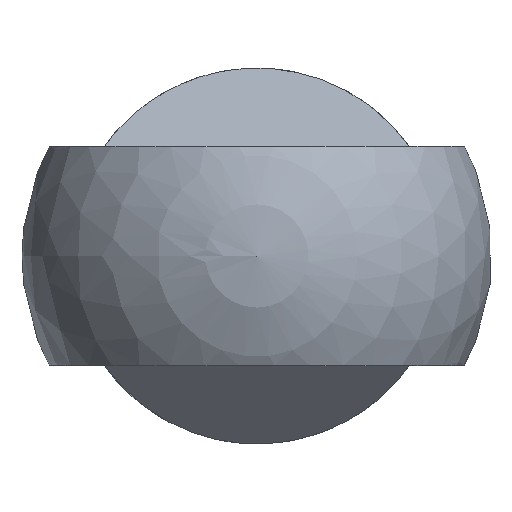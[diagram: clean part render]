
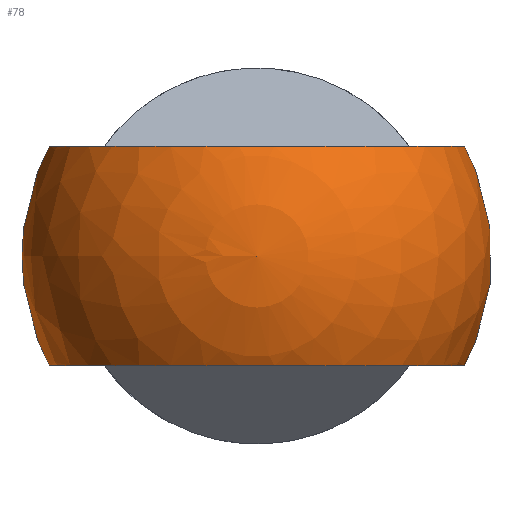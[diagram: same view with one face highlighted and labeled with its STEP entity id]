
A CAD part, left-side view. The second image highlights one B-rep face of the part: STEP entity #78.
In plain terms, the highlighted spherical face has radius 15 mm.
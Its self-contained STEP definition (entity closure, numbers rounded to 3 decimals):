
#78 = ADVANCED_FACE( '', ( #97, #98 ), #99, .T. );
#97 = FACE_BOUND( '', #131, .T. );
#98 = FACE_OUTER_BOUND( '', #132, .T. );
#99 = SPHERICAL_SURFACE( '', #133, 15. );
#131 = VERTEX_LOOP( '', #181 );
#132 = EDGE_LOOP( '', ( #182, #183, #184, #185 ) );
#133 = AXIS2_PLACEMENT_3D( '', #186, #187, #188 );
#181 = VERTEX_POINT( '', #245 );
#182 = ORIENTED_EDGE( '', *, *, #239, .F. );
#183 = ORIENTED_EDGE( '', *, *, #237, .T. );
#184 = ORIENTED_EDGE( '', *, *, #243, .F. );
#185 = ORIENTED_EDGE( '', *, *, #246, .T. );
#186 = CARTESIAN_POINT( '', ( 0., 0., 0. ) );
#187 = DIRECTION( '', ( 1., 0., 0. ) );
#188 = DIRECTION( '', ( 0., 1., 0. ) );
#237 = EDGE_CURVE( '', #257, #262, #264, .F. );
#239 = EDGE_CURVE( '', #257, #267, #268, .F. );
#243 = EDGE_CURVE( '', #273, #262, #275, .F. );
#245 = CARTESIAN_POINT( '', ( -15., 0., 0. ) );
#246 = EDGE_CURVE( '', #273, #267, #277, .F. );
#257 = VERTEX_POINT( '', #291 );
#262 = VERTEX_POINT( '', #298 );
#264 = CIRCLE( '', #301, 13.266 );
#267 = VERTEX_POINT( '', #304 );
#268 = CIRCLE( '', #305, 12. );
#273 = VERTEX_POINT( '', #311 );
#275 = CIRCLE( '', #314, 12. );
#277 = CIRCLE( '', #316, 13.266 );
#291 = CARTESIAN_POINT( '', ( 9., 9.747, -7. ) );
#298 = CARTESIAN_POINT( '', ( 9., -9.747, -7. ) );
#301 = AXIS2_PLACEMENT_3D( '', #336, #337, #338 );
#304 = CARTESIAN_POINT( '', ( 9., 9.747, 7. ) );
#305 = AXIS2_PLACEMENT_3D( '', #342, #343, #344 );
#311 = CARTESIAN_POINT( '', ( 9., -9.747, 7. ) );
#314 = AXIS2_PLACEMENT_3D( '', #350, #351, #352 );
#316 = AXIS2_PLACEMENT_3D( '', #356, #357, #358 );
#336 = CARTESIAN_POINT( '', ( 0., 0., -7. ) );
#337 = DIRECTION( '', ( 0., 0., -1. ) );
#338 = DIRECTION( '', ( -1., 0., 0. ) );
#342 = CARTESIAN_POINT( '', ( 9., 0., 0. ) );
#343 = DIRECTION( '', ( -1., 0., 0. ) );
#344 = DIRECTION( '', ( 0., -1., 0. ) );
#350 = CARTESIAN_POINT( '', ( 9., 0., 0. ) );
#351 = DIRECTION( '', ( -1., 0., 0. ) );
#352 = DIRECTION( '', ( 0., -1., 0. ) );
#356 = CARTESIAN_POINT( '', ( 0., 0., 7. ) );
#357 = DIRECTION( '', ( 0., 0., 1. ) );
#358 = DIRECTION( '', ( 1., 0., 0. ) );
